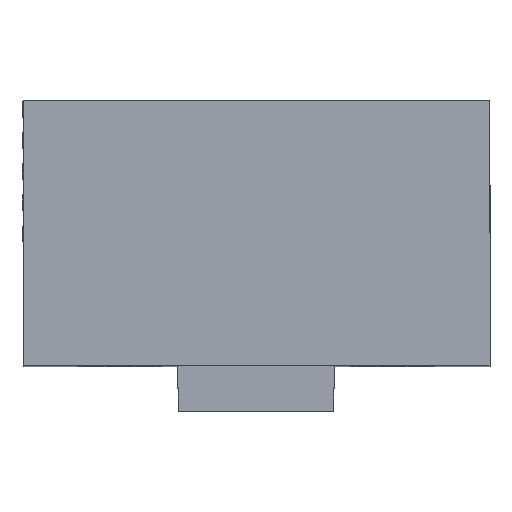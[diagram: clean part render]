
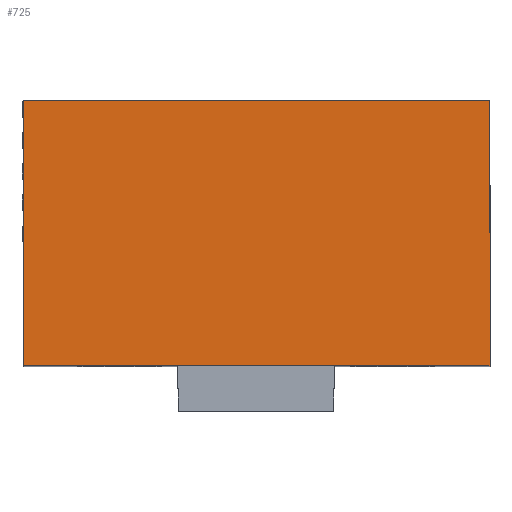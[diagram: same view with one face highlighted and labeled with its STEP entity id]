
A CAD part, top view. The second image highlights one B-rep face of the part: STEP entity #725.
In plain terms, the highlighted planar face has unit normal (0, 0, 1).
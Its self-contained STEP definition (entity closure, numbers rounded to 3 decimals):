
#330 = VERTEX_POINT ( 'NONE', #2463 ) ;
#365 = VERTEX_POINT ( 'NONE', #2545 ) ;
#367 = EDGE_CURVE ( 'NONE', #368, #365, #2544, .T. ) ;
#368 = VERTEX_POINT ( 'NONE', #2603 ) ;
#560 = EDGE_CURVE ( 'NONE', #561, #330, #2936, .T. ) ;
#561 = VERTEX_POINT ( 'NONE', #2932 ) ;
#706 = EDGE_CURVE ( 'NONE', #330, #368, #3175, .T. ) ;
#723 = EDGE_CURVE ( 'NONE', #365, #561, #3156, .T. ) ;
#725 = ADVANCED_FACE ( 'NONE', ( #3152 ), #3151, .F. ) ;
#726 = EDGE_LOOP ( 'NONE', ( #727, #728, #729, #730 ) ) ;
#727 = ORIENTED_EDGE ( 'NONE', *, *, #706, .T. ) ;
#728 = ORIENTED_EDGE ( 'NONE', *, *, #367, .T. ) ;
#729 = ORIENTED_EDGE ( 'NONE', *, *, #723, .T. ) ;
#730 = ORIENTED_EDGE ( 'NONE', *, *, #560, .T. ) ;
#2463 = CARTESIAN_POINT ( 'NONE',  ( -29.8, 5.8, 44.75 ) ) ;
#2542 = VECTOR ( 'NONE', #2604, 1000. ) ;
#2543 = CARTESIAN_POINT ( 'NONE',  ( 30., 5.8, 44.75 ) ) ;
#2544 = LINE ( 'NONE', #2543, #2542 ) ;
#2545 = CARTESIAN_POINT ( 'NONE',  ( 30., 39.8, 44.75 ) ) ;
#2603 = CARTESIAN_POINT ( 'NONE',  ( 30., 5.8, 44.75 ) ) ;
#2604 = DIRECTION ( 'NONE',  ( 0., 1., 0. ) ) ;
#2932 = CARTESIAN_POINT ( 'NONE',  ( -29.8, 39.8, 44.75 ) ) ;
#2933 = DIRECTION ( 'NONE',  ( 0., -1., 0. ) ) ;
#2934 = VECTOR ( 'NONE', #2933, 1000. ) ;
#2935 = CARTESIAN_POINT ( 'NONE',  ( -29.8, 39.8, 44.75 ) ) ;
#2936 = LINE ( 'NONE', #2935, #2934 ) ;
#3146 = DIRECTION ( 'NONE',  ( -1., 0., 0. ) ) ;
#3147 = DIRECTION ( 'NONE',  ( 0., 0., -1. ) ) ;
#3148 = AXIS2_PLACEMENT_3D ( 'NONE', #3150, #3147, #3146 ) ;
#3150 = CARTESIAN_POINT ( 'NONE',  ( -29.8, 39.8, 44.75 ) ) ;
#3151 = PLANE ( 'NONE',  #3148 ) ;
#3152 = FACE_OUTER_BOUND ( 'NONE', #726, .T. ) ;
#3153 = DIRECTION ( 'NONE',  ( -1., 0., 0. ) ) ;
#3154 = VECTOR ( 'NONE', #3153, 1000. ) ;
#3155 = CARTESIAN_POINT ( 'NONE',  ( 30., 39.8, 44.75 ) ) ;
#3156 = LINE ( 'NONE', #3155, #3154 ) ;
#3172 = DIRECTION ( 'NONE',  ( 1., 0., 0. ) ) ;
#3173 = VECTOR ( 'NONE', #3172, 1000. ) ;
#3174 = CARTESIAN_POINT ( 'NONE',  ( -29.8, 5.8, 44.75 ) ) ;
#3175 = LINE ( 'NONE', #3174, #3173 ) ;
